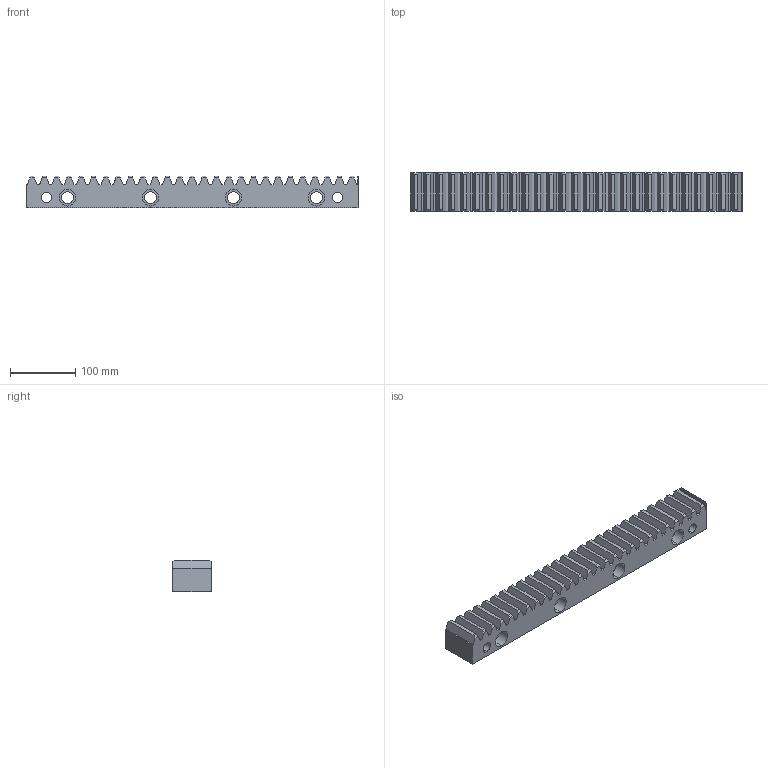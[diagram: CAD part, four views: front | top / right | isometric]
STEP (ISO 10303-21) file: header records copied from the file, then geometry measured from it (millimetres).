
FILE_DESCRIPTION (( 'STEP AP203' ), '1' );
FILE_NAME ('FX3 22 171 161.STEP', '2023-04-06T05:43:17', ( '' ), ( '' ), 'SwSTEP 2.0', 'SolidWorks 2010', '' );
FILE_SCHEMA (( 'CONFIG_CONTROL_DESIGN' ));
Length unit declared in the file: millimetre
Products named in the file (1): FX3 22 171 161
Bounding box: 508.94 x 59 x 49 mm (x, y, z)
Volume: 1177197 mm3; surface area: 156478 mm2
Topology: 1 solids, 1 shells, 1179 faces, 3270 edges, 2180 vertices
Faces by surface type: plane 789, bspline 370, cylinder 20
Entity records: 63881 total; most frequent: CARTESIAN_POINT 36096, ORIENTED_EDGE 6540, DIRECTION 4190, EDGE_CURVE 3270, VECTOR 2490, LINE 2490, VERTEX_POINT 2180, EDGE_LOOP 1278
